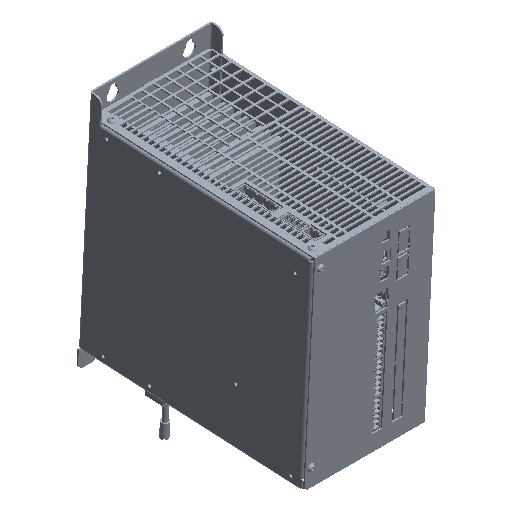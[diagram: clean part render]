
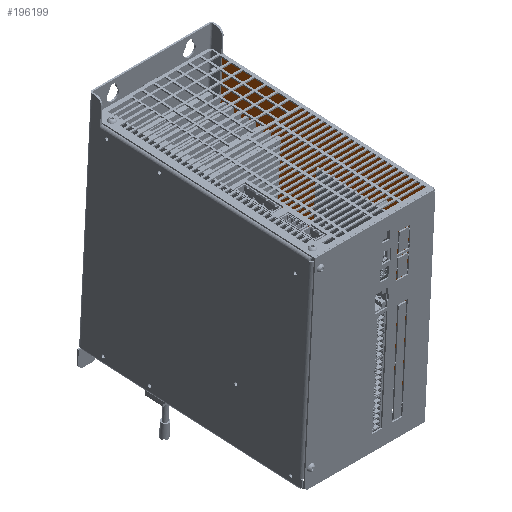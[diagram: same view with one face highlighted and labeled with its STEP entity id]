
A CAD part, isometric view. The second image highlights one B-rep face of the part: STEP entity #196199.
In plain terms, the highlighted planar face has unit normal (-1, 0, 0).
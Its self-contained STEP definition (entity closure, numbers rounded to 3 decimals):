
#3686=FACE_BOUND('',#31955,.T.);
#3687=FACE_BOUND('',#31956,.T.);
#3688=FACE_BOUND('',#31957,.T.);
#10545=PLANE('',#210863);
#20182=FACE_OUTER_BOUND('',#31954,.T.);
#31954=EDGE_LOOP('',(#170289,#170290,#170291,#170292,#170293,#170294,#170295,
#170296,#170297,#170298));
#31955=EDGE_LOOP('',(#170299,#170300));
#31956=EDGE_LOOP('',(#170301,#170302));
#31957=EDGE_LOOP('',(#170303,#170304));
#51694=LINE('',#324240,#72142);
#51698=LINE('',#324247,#72146);
#51708=LINE('',#324280,#72156);
#51710=LINE('',#324284,#72158);
#51712=LINE('',#324288,#72160);
#51713=LINE('',#324290,#72161);
#51714=LINE('',#324292,#72162);
#51715=LINE('',#324294,#72163);
#51716=LINE('',#324295,#72164);
#51717=LINE('',#324296,#72165);
#72142=VECTOR('',#257332,0.394);
#72146=VECTOR('',#257338,0.394);
#72156=VECTOR('',#257364,0.394);
#72158=VECTOR('',#257368,0.394);
#72160=VECTOR('',#257372,0.394);
#72161=VECTOR('',#257373,0.394);
#72162=VECTOR('',#257374,0.394);
#72163=VECTOR('',#257375,0.394);
#72164=VECTOR('',#257376,0.394);
#72165=VECTOR('',#257377,0.394);
#79087=CIRCLE('',#210864,0.069);
#79088=CIRCLE('',#210865,0.069);
#79089=CIRCLE('',#210866,0.069);
#79090=CIRCLE('',#210867,0.069);
#79091=CIRCLE('',#210868,0.069);
#79092=CIRCLE('',#210869,0.069);
#95304=VERTEX_POINT('',#324237);
#95305=VERTEX_POINT('',#324239);
#95307=VERTEX_POINT('',#324245);
#95321=VERTEX_POINT('',#324277);
#95322=VERTEX_POINT('',#324279);
#95323=VERTEX_POINT('',#324283);
#95324=VERTEX_POINT('',#324287);
#95325=VERTEX_POINT('',#324289);
#95326=VERTEX_POINT('',#324291);
#95327=VERTEX_POINT('',#324293);
#95328=VERTEX_POINT('',#324297);
#95329=VERTEX_POINT('',#324298);
#95330=VERTEX_POINT('',#324301);
#95331=VERTEX_POINT('',#324302);
#95332=VERTEX_POINT('',#324305);
#95333=VERTEX_POINT('',#324306);
#120671=EDGE_CURVE('',#95304,#95305,#51694,.T.);
#120675=EDGE_CURVE('',#95307,#95304,#51698,.T.);
#120691=EDGE_CURVE('',#95321,#95322,#51708,.T.);
#120693=EDGE_CURVE('',#95322,#95323,#51710,.T.);
#120695=EDGE_CURVE('',#95307,#95324,#51712,.T.);
#120696=EDGE_CURVE('',#95324,#95325,#51713,.T.);
#120697=EDGE_CURVE('',#95325,#95326,#51714,.T.);
#120698=EDGE_CURVE('',#95326,#95327,#51715,.T.);
#120699=EDGE_CURVE('',#95327,#95323,#51716,.T.);
#120700=EDGE_CURVE('',#95305,#95321,#51717,.T.);
#120701=EDGE_CURVE('',#95328,#95329,#79087,.T.);
#120702=EDGE_CURVE('',#95329,#95328,#79088,.T.);
#120703=EDGE_CURVE('',#95330,#95331,#79089,.T.);
#120704=EDGE_CURVE('',#95331,#95330,#79090,.T.);
#120705=EDGE_CURVE('',#95332,#95333,#79091,.T.);
#120706=EDGE_CURVE('',#95333,#95332,#79092,.T.);
#170289=ORIENTED_EDGE('',*,*,#120671,.F.);
#170290=ORIENTED_EDGE('',*,*,#120675,.F.);
#170291=ORIENTED_EDGE('',*,*,#120695,.T.);
#170292=ORIENTED_EDGE('',*,*,#120696,.T.);
#170293=ORIENTED_EDGE('',*,*,#120697,.T.);
#170294=ORIENTED_EDGE('',*,*,#120698,.T.);
#170295=ORIENTED_EDGE('',*,*,#120699,.T.);
#170296=ORIENTED_EDGE('',*,*,#120693,.F.);
#170297=ORIENTED_EDGE('',*,*,#120691,.F.);
#170298=ORIENTED_EDGE('',*,*,#120700,.F.);
#170299=ORIENTED_EDGE('',*,*,#120701,.T.);
#170300=ORIENTED_EDGE('',*,*,#120702,.T.);
#170301=ORIENTED_EDGE('',*,*,#120703,.T.);
#170302=ORIENTED_EDGE('',*,*,#120704,.T.);
#170303=ORIENTED_EDGE('',*,*,#120705,.T.);
#170304=ORIENTED_EDGE('',*,*,#120706,.T.);
#196199=ADVANCED_FACE('',(#20182,#3686,#3687,#3688),#10545,.F.);
#210863=AXIS2_PLACEMENT_3D('',#324286,#257370,#257371);
#210864=AXIS2_PLACEMENT_3D('',#324299,#257378,#257379);
#210865=AXIS2_PLACEMENT_3D('',#324300,#257380,#257381);
#210866=AXIS2_PLACEMENT_3D('',#324303,#257382,#257383);
#210867=AXIS2_PLACEMENT_3D('',#324304,#257384,#257385);
#210868=AXIS2_PLACEMENT_3D('',#324307,#257386,#257387);
#210869=AXIS2_PLACEMENT_3D('',#324308,#257388,#257389);
#257332=DIRECTION('',(0.,0.67,0.743));
#257338=DIRECTION('',(0.,0.999,0.052));
#257364=DIRECTION('',(0.,-0.743,0.67));
#257368=DIRECTION('',(0.,-0.999,-0.052));
#257370=DIRECTION('center_axis',(1.,0.,0.));
#257371=DIRECTION('ref_axis',(0.,-0.052,
0.999));
#257372=DIRECTION('',(0.,-0.052,0.999));
#257373=DIRECTION('',(0.,0.999,0.052));
#257374=DIRECTION('',(0.,0.052,-0.999));
#257375=DIRECTION('',(0.,0.999,0.052));
#257376=DIRECTION('',(0.,-0.052,0.999));
#257377=DIRECTION('',(0.,-0.052,0.999));
#257378=DIRECTION('center_axis',(1.,0.,0.));
#257379=DIRECTION('ref_axis',(0.,-0.052,
0.999));
#257380=DIRECTION('center_axis',(1.,0.,0.));
#257381=DIRECTION('ref_axis',(0.,-0.052,
0.999));
#257382=DIRECTION('center_axis',(1.,0.,0.));
#257383=DIRECTION('ref_axis',(0.,-0.052,
0.999));
#257384=DIRECTION('center_axis',(1.,0.,0.));
#257385=DIRECTION('ref_axis',(0.,-0.052,
0.999));
#257386=DIRECTION('center_axis',(1.,0.,0.));
#257387=DIRECTION('ref_axis',(0.,-0.052,
0.999));
#257388=DIRECTION('center_axis',(1.,0.,0.));
#257389=DIRECTION('ref_axis',(0.,-0.052,
0.999));
#324237=CARTESIAN_POINT('',(2.049,2.884,-5.015));
#324239=CARTESIAN_POINT('',(2.049,2.958,-4.932));
#324240=CARTESIAN_POINT('',(2.049,2.863,-5.038));
#324245=CARTESIAN_POINT('',(2.049,-4.107,-5.377));
#324247=CARTESIAN_POINT('',(2.049,-4.146,-5.379));
#324277=CARTESIAN_POINT('',(2.049,2.624,1.531));
#324279=CARTESIAN_POINT('',(2.049,2.541,1.605));
#324280=CARTESIAN_POINT('',(2.049,2.518,1.626));
#324283=CARTESIAN_POINT('',(2.049,2.305,1.593));
#324284=CARTESIAN_POINT('',(2.049,2.619,1.609));
#324286=CARTESIAN_POINT('Origin',(2.049,-0.763,-1.885));
#324287=CARTESIAN_POINT('',(2.049,-4.448,1.204));
#324288=CARTESIAN_POINT('',(2.049,-4.364,-0.412));
#324289=CARTESIAN_POINT('',(2.049,2.307,1.554));
#324290=CARTESIAN_POINT('',(2.049,0.687,1.47));
#324291=CARTESIAN_POINT('',(2.049,2.307,1.554));
#324292=CARTESIAN_POINT('',(2.049,2.392,-0.082));
#324293=CARTESIAN_POINT('',(2.049,2.307,1.554));
#324294=CARTESIAN_POINT('',(2.049,0.687,1.47));
#324295=CARTESIAN_POINT('',(2.049,2.391,-0.062));
#324296=CARTESIAN_POINT('',(2.049,2.962,-5.011));
#324297=CARTESIAN_POINT('',(2.049,-3.682,-5.049));
#324298=CARTESIAN_POINT('',(2.049,-3.675,-5.187));
#324299=CARTESIAN_POINT('Origin',(2.049,-3.679,-5.118));
#324300=CARTESIAN_POINT('Origin',(2.049,-3.679,-5.118));
#324301=CARTESIAN_POINT('',(2.049,2.805,-4.713));
#324302=CARTESIAN_POINT('',(2.049,2.812,-4.851));
#324303=CARTESIAN_POINT('Origin',(2.049,2.809,-4.782));
#324304=CARTESIAN_POINT('Origin',(2.049,2.809,-4.782));
#324305=CARTESIAN_POINT('',(2.049,2.5,1.184));
#324306=CARTESIAN_POINT('',(2.049,2.507,1.047));
#324307=CARTESIAN_POINT('Origin',(2.049,2.503,1.115));
#324308=CARTESIAN_POINT('Origin',(2.049,2.503,1.115));
